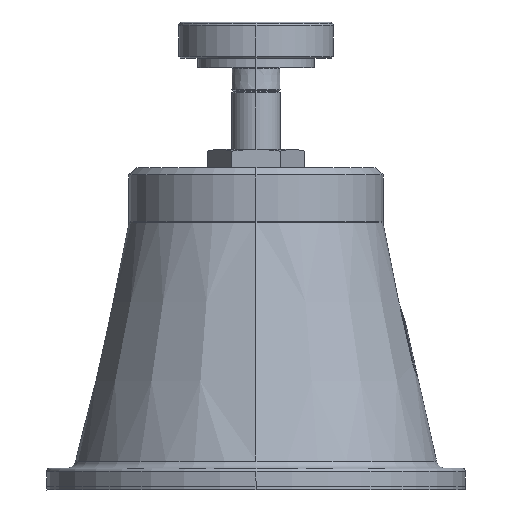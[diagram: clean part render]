
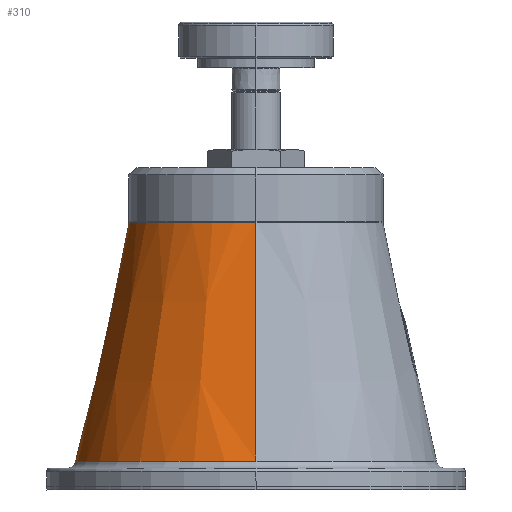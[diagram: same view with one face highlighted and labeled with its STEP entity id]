
A CAD part, left-side view. The second image highlights one B-rep face of the part: STEP entity #310.
In plain terms, the highlighted conical face has half-angle 12.633 degrees and reference radius 84.432 mm.
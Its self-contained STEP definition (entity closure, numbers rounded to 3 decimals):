
#310=ADVANCED_FACE('',(#653),#654,.T.);
#653=FACE_OUTER_BOUND('',#1063,.T.);
#654=CONICAL_SURFACE('',#1064,84.432,0.22);
#1063=EDGE_LOOP('',(#1777,#1778,#1779,#1780,#1781));
#1064=AXIS2_PLACEMENT_3D('',#1782,#1783,#1784);
#1777=ORIENTED_EDGE('',*,*,#2563,.T.);
#1778=ORIENTED_EDGE('',*,*,#2588,.F.);
#1779=ORIENTED_EDGE('',*,*,#2565,.T.);
#1780=ORIENTED_EDGE('',*,*,#2589,.T.);
#1781=ORIENTED_EDGE('',*,*,#2489,.T.);
#1782=CARTESIAN_POINT('',(383.36,458.888,79.457));
#1783=DIRECTION('',(0.,0.,-1.0));
#1784=DIRECTION('',(-1.0,0.,0.));
#2489=EDGE_CURVE('',#2963,#2971,#2973,.T.);
#2563=EDGE_CURVE('',#2971,#3104,#3105,.T.);
#2565=EDGE_CURVE('',#3108,#3106,#3109,.T.);
#2588=EDGE_CURVE('',#3108,#3104,#3147,.T.);
#2589=EDGE_CURVE('',#3106,#2963,#3148,.T.);
#2963=VERTEX_POINT('',#3596);
#2971=VERTEX_POINT('',#3604);
#2973=CIRCLE('',#3606,99.123);
#3104=VERTEX_POINT('',#4197);
#3105=LINE('',#4198,#4199);
#3106=VERTEX_POINT('',#4200);
#3108=VERTEX_POINT('',#4202);
#3109=LINE('',#4203,#4204);
#3147=CIRCLE('',#4251,69.742);
#3148=CIRCLE('',#4252,99.123);
#3596=CARTESIAN_POINT('',(383.36,558.011,13.915));
#3604=CARTESIAN_POINT('',(284.237,458.888,13.915));
#3606=AXIS2_PLACEMENT_3D('',#4915,#4916,#4917);
#4197=CARTESIAN_POINT('',(313.618,458.888,145.));
#4198=CARTESIAN_POINT('',(298.928,458.888,79.457));
#4199=VECTOR('',#4986,1.0);
#4200=CARTESIAN_POINT('',(482.482,458.888,13.915));
#4202=CARTESIAN_POINT('',(453.101,458.888,145.));
#4203=CARTESIAN_POINT('',(467.792,458.888,79.457));
#4204=VECTOR('',#4990,1.0);
#4251=AXIS2_PLACEMENT_3D('',#5033,#5034,#5035);
#4252=AXIS2_PLACEMENT_3D('',#5036,#5037,#5038);
#4915=CARTESIAN_POINT('',(383.36,458.888,13.915));
#4916=DIRECTION('',(0.,0.,1.0));
#4917=DIRECTION('',(-1.0,0.,0.));
#4986=DIRECTION('',(0.219,0.,0.976));
#4990=DIRECTION('',(0.219,0.,-0.976));
#5033=CARTESIAN_POINT('',(383.36,458.888,145.));
#5034=DIRECTION('',(0.,0.,1.0));
#5035=DIRECTION('',(-1.0,0.,0.));
#5036=CARTESIAN_POINT('',(383.36,458.888,13.915));
#5037=DIRECTION('',(0.,0.,1.0));
#5038=DIRECTION('',(-1.0,0.,0.));
